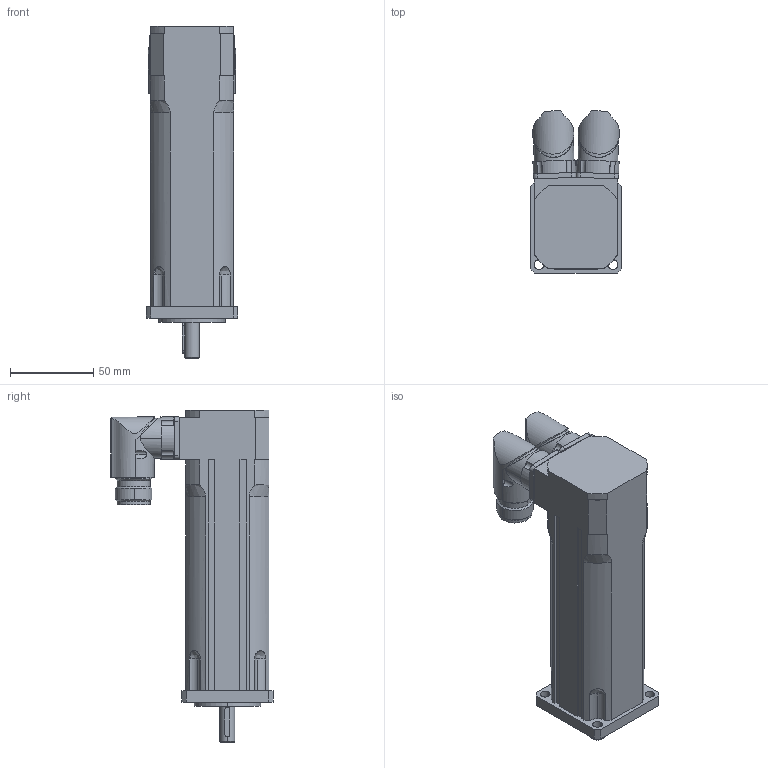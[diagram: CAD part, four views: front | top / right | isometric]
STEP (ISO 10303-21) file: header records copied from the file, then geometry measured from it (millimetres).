
FILE_DESCRIPTION(('STEP AP203'),'2;1');
FILE_NAME('MT2-0080_B.stp','2006-08-28T20:01:28',(''),(''),'2005.2.102','THINKDESIGN','');
FILE_SCHEMA(('CONFIG_CONTROL_DESIGN'));
Length unit declared in the file: millimetre
Bounding box: 55 x 97.7 x 200 mm (x, y, z)
Volume: 466371.4 mm3; surface area: 61330.6 mm2
Topology: 3 solids, 3 shells, 262 faces, 694 edges, 448 vertices
Faces by surface type: cylinder 116, plane 102, bspline 44
Entity records: 9879 total; most frequent: CARTESIAN_POINT 3284, ORIENTED_EDGE 1388, DIRECTION 1362, EDGE_CURVE 694, AXIS2_PLACEMENT_3D 520, VERTEX_POINT 448, VECTOR 322, LINE 322
